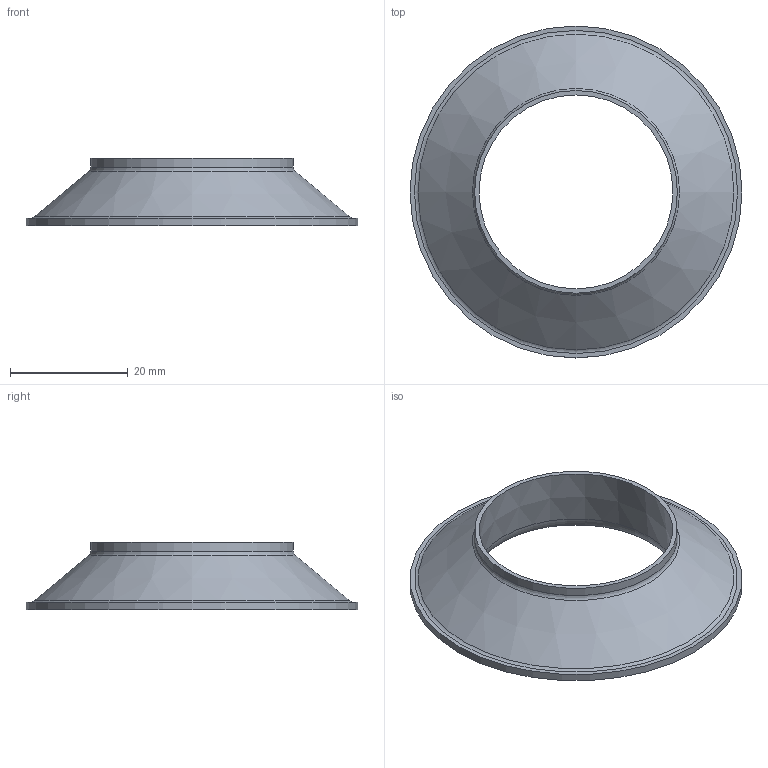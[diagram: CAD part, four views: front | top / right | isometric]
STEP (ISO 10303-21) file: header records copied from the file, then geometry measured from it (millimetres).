
FILE_DESCRIPTION( ('This file contains a STEP AP42 implementation' ,'as created by ZW3D STEP Interface translator.') ,'2;1' );
FILE_NAME( 'KM-32.stp' ,'26 511. 94010', (''), ('ZWCAD Software Co.'), 'Version 1.0', 'ZW3D to STEP translator', '' );
FILE_SCHEMA(('AP242_MANAGED_MODEL_BASED_3D_ENGINEERING_MIM_LF { 1 0 10303 442 1 1 4 }'));
Length unit declared in the file: millimetre
Products named in the file (1): 0
Bounding box: 56.5 x 56.5 x 11.5 mm (x, y, z)
Volume: 7592.8 mm3; surface area: 5256.4 mm2
Topology: 1 solids, 1 shells, 10 faces, 17 edges, 10 vertices
Faces by surface type: plane 3, torus 3, cylinder 2, cone 2
Full cylindrical faces by diameter (mm): 34.5 x1, 56.5 x1
Entity records: 276 total; most frequent: DIRECTION 52, CARTESIAN_POINT 38, ORIENTED_EDGE 34, AXIS2_PLACEMENT_3D 24, EDGE_CURVE 17, CIRCLE 13, EDGE_LOOP 13, VERTEX_POINT 10
